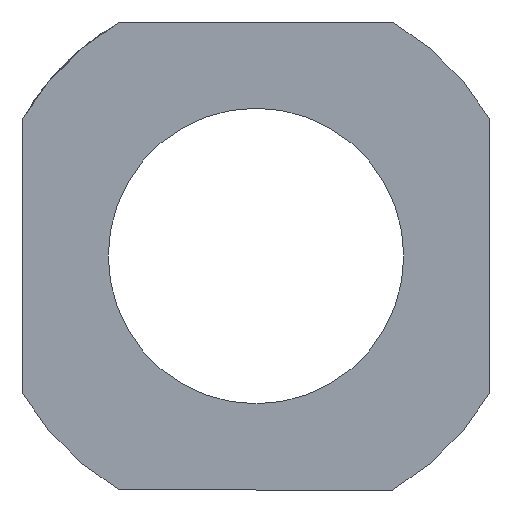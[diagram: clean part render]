
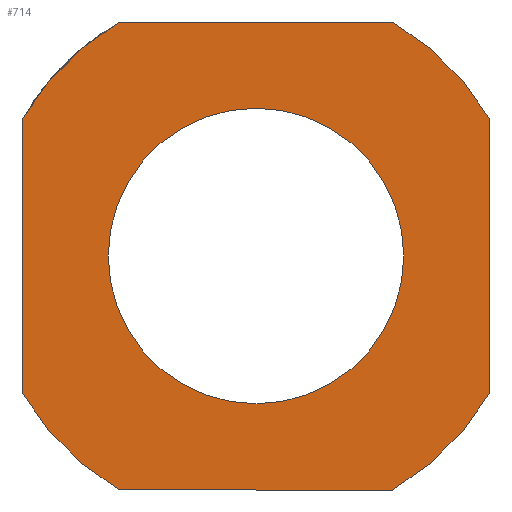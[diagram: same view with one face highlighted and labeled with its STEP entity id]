
A CAD part, left-side view. The second image highlights one B-rep face of the part: STEP entity #714.
In plain terms, the highlighted planar face has unit normal (-1, 0, 0).
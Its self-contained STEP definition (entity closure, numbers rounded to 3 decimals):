
#409=CARTESIAN_POINT('',(0.0,-6.,0.0));
#410=VERTEX_POINT('',#409);
#411=CARTESIAN_POINT('',(0.0,0.0,0.0));
#412=DIRECTION('',(1.0,0.0,0.0));
#413=DIRECTION('',(0.0,-1.0,0.0));
#414=AXIS2_PLACEMENT_3D('',#411,#412,#413);
#415=CIRCLE('',#414,6.);
#416=EDGE_CURVE('',#410,#410,#415,.T.);
#436=CARTESIAN_POINT('',(0.0,5.545,9.5));
#437=VERTEX_POINT('',#436);
#444=CARTESIAN_POINT('',(0.0,-5.545,9.5));
#445=VERTEX_POINT('',#444);
#446=CARTESIAN_POINT('',(0.0,-5.545,9.5));
#447=DIRECTION('',(0.0,1.0,0.0));
#448=VECTOR('',#447,11.091);
#449=LINE('',#446,#448);
#450=EDGE_CURVE('',#445,#437,#449,.T.);
#476=CARTESIAN_POINT('',(0.0,-5.545,-9.5));
#477=VERTEX_POINT('',#476);
#484=CARTESIAN_POINT('',(0.0,5.545,-9.5));
#485=VERTEX_POINT('',#484);
#486=CARTESIAN_POINT('',(0.0,5.545,-9.5));
#487=DIRECTION('',(0.0,-1.0,0.0));
#488=VECTOR('',#487,11.091);
#489=LINE('',#486,#488);
#490=EDGE_CURVE('',#485,#477,#489,.T.);
#516=CARTESIAN_POINT('',(0.0,-9.5,5.545));
#517=VERTEX_POINT('',#516);
#524=CARTESIAN_POINT('',(0.0,-9.5,-5.545));
#525=VERTEX_POINT('',#524);
#526=CARTESIAN_POINT('',(0.0,-9.5,-5.545));
#527=DIRECTION('',(0.0,0.0,1.0));
#528=VECTOR('',#527,11.091);
#529=LINE('',#526,#528);
#530=EDGE_CURVE('',#525,#517,#529,.T.);
#556=CARTESIAN_POINT('',(0.0,9.5,-5.545));
#557=VERTEX_POINT('',#556);
#564=CARTESIAN_POINT('',(0.0,9.5,5.545));
#565=VERTEX_POINT('',#564);
#566=CARTESIAN_POINT('',(0.0,9.5,5.545));
#567=DIRECTION('',(0.0,0.0,-1.0));
#568=VECTOR('',#567,11.091);
#569=LINE('',#566,#568);
#570=EDGE_CURVE('',#565,#557,#569,.T.);
#587=CARTESIAN_POINT('',(0.0,0.0,0.0));
#588=DIRECTION('',(1.0,0.0,0.0));
#589=DIRECTION('',(0.0,1.0,0.0));
#590=AXIS2_PLACEMENT_3D('',#587,#588,#589);
#591=CIRCLE('',#590,11.0);
#592=EDGE_CURVE('',#485,#557,#591,.T.);
#619=CARTESIAN_POINT('',(0.0,0.0,0.0));
#620=DIRECTION('',(1.0,0.0,0.0));
#621=DIRECTION('',(0.0,1.0,0.0));
#622=AXIS2_PLACEMENT_3D('',#619,#620,#621);
#623=CIRCLE('',#622,11.0);
#624=EDGE_CURVE('',#525,#477,#623,.T.);
#643=CARTESIAN_POINT('',(0.0,0.0,0.0));
#644=DIRECTION('',(1.0,0.0,0.0));
#645=DIRECTION('',(0.0,1.0,0.0));
#646=AXIS2_PLACEMENT_3D('',#643,#644,#645);
#647=CIRCLE('',#646,11.0);
#648=EDGE_CURVE('',#565,#437,#647,.T.);
#690=CARTESIAN_POINT('',(0.0,5.5,0.0));
#691=DIRECTION('',(-1.0,0.0,0.0));
#692=DIRECTION('',(0.0,0.0,1.0));
#693=AXIS2_PLACEMENT_3D('',#690,#691,#692);
#694=PLANE('',#693);
#695=ORIENTED_EDGE('',*,*,#450,.T.);
#696=ORIENTED_EDGE('',*,*,#648,.F.);
#697=ORIENTED_EDGE('',*,*,#570,.T.);
#698=ORIENTED_EDGE('',*,*,#592,.F.);
#699=ORIENTED_EDGE('',*,*,#490,.T.);
#700=ORIENTED_EDGE('',*,*,#624,.F.);
#701=ORIENTED_EDGE('',*,*,#530,.T.);
#702=CARTESIAN_POINT('',(0.0,0.0,0.0));
#703=DIRECTION('',(1.0,0.0,0.0));
#704=DIRECTION('',(0.0,1.0,0.0));
#705=AXIS2_PLACEMENT_3D('',#702,#703,#704);
#706=CIRCLE('',#705,11.0);
#707=EDGE_CURVE('',#445,#517,#706,.T.);
#708=ORIENTED_EDGE('',*,*,#707,.F.);
#709=EDGE_LOOP('',(#695,#696,#697,#698,#699,#700,#701,#708));
#710=FACE_OUTER_BOUND('',#709,.T.);
#711=ORIENTED_EDGE('',*,*,#416,.T.);
#712=EDGE_LOOP('',(#711));
#713=FACE_BOUND('',#712,.T.);
#714=ADVANCED_FACE('',(#710,#713),#694,.T.);
